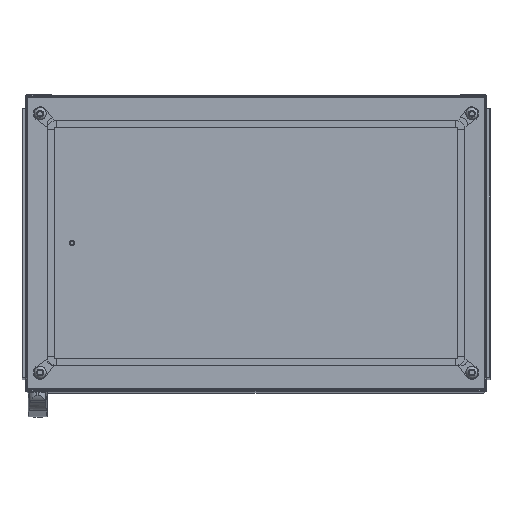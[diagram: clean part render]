
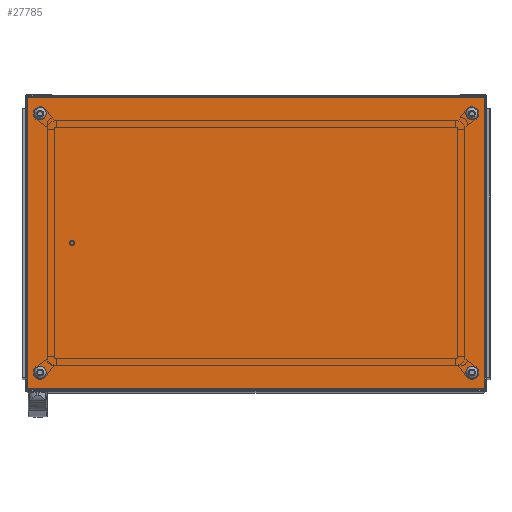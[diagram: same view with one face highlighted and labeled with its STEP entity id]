
A CAD part, top view. The second image highlights one B-rep face of the part: STEP entity #27785.
In plain terms, the highlighted planar face has unit normal (0, 0, 1).
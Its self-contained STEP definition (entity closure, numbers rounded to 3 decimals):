
#1359=CIRCLE('',#29825,6.);
#1360=CIRCLE('',#29826,6.);
#1361=CIRCLE('',#29827,6.);
#1362=CIRCLE('',#29828,6.);
#5171=ORIENTED_EDGE('',*,*,#11805,.F.);
#5172=ORIENTED_EDGE('',*,*,#11806,.F.);
#5173=ORIENTED_EDGE('',*,*,#11807,.F.);
#5174=ORIENTED_EDGE('',*,*,#11808,.F.);
#5175=ORIENTED_EDGE('',*,*,#11794,.T.);
#5176=ORIENTED_EDGE('',*,*,#11802,.T.);
#5177=ORIENTED_EDGE('',*,*,#11765,.F.);
#5178=ORIENTED_EDGE('',*,*,#11809,.F.);
#11765=EDGE_CURVE('',#15317,#15318,#18093,.T.);
#11794=EDGE_CURVE('',#15339,#15338,#18099,.T.);
#11802=EDGE_CURVE('',#15338,#15318,#18104,.T.);
#11805=EDGE_CURVE('',#15340,#15340,#1359,.T.);
#11806=EDGE_CURVE('',#15341,#15341,#1360,.T.);
#11807=EDGE_CURVE('',#15342,#15342,#1361,.T.);
#11808=EDGE_CURVE('',#15343,#15343,#1362,.T.);
#11809=EDGE_CURVE('',#15339,#15317,#18107,.T.);
#15317=VERTEX_POINT('',#43317);
#15318=VERTEX_POINT('',#43319);
#15338=VERTEX_POINT('',#43393);
#15339=VERTEX_POINT('',#43395);
#15340=VERTEX_POINT('',#43412);
#15341=VERTEX_POINT('',#43414);
#15342=VERTEX_POINT('',#43416);
#15343=VERTEX_POINT('',#43418);
#18093=LINE('',#43318,#20502);
#18099=LINE('',#43394,#20508);
#18104=LINE('',#43406,#20513);
#18107=LINE('',#43419,#20516);
#20502=VECTOR('',#34703,1000.);
#20508=VECTOR('',#34757,1000.);
#20513=VECTOR('',#34774,1000.);
#20516=VECTOR('',#34789,1000.);
#22609=EDGE_LOOP('',(#5171));
#22610=EDGE_LOOP('',(#5172));
#22611=EDGE_LOOP('',(#5173));
#22612=EDGE_LOOP('',(#5174));
#22613=EDGE_LOOP('',(#5175,#5176,#5177,#5178));
#24904=FACE_BOUND('',#22609,.T.);
#24905=FACE_BOUND('',#22610,.T.);
#24906=FACE_BOUND('',#22611,.T.);
#24907=FACE_BOUND('',#22612,.T.);
#24908=FACE_BOUND('',#22613,.T.);
#26856=PLANE('',#29824);
#27785=ADVANCED_FACE('',(#24904,#24905,#24906,#24907,#24908),#26856,.T.);
#29824=AXIS2_PLACEMENT_3D('',#43410,#34779,#34780);
#29825=AXIS2_PLACEMENT_3D('',#43411,#34781,#34782);
#29826=AXIS2_PLACEMENT_3D('',#43413,#34783,#34784);
#29827=AXIS2_PLACEMENT_3D('',#43415,#34785,#34786);
#29828=AXIS2_PLACEMENT_3D('',#43417,#34787,#34788);
#34703=DIRECTION('',(-1.,0.,0.));
#34757=DIRECTION('',(-1.,0.,0.));
#34774=DIRECTION('',(0.,-1.,0.));
#34779=DIRECTION('',(0.,0.,1.));
#34780=DIRECTION('',(1.,0.,0.));
#34781=DIRECTION('',(0.,0.,1.));
#34782=DIRECTION('',(1.,0.,0.));
#34783=DIRECTION('',(0.,0.,1.));
#34784=DIRECTION('',(1.,0.,0.));
#34785=DIRECTION('',(0.,0.,1.));
#34786=DIRECTION('',(1.,0.,0.));
#34787=DIRECTION('',(0.,0.,1.));
#34788=DIRECTION('',(1.,0.,0.));
#34789=DIRECTION('',(0.,-1.,0.));
#43317=CARTESIAN_POINT('',(396.5,-252.5,20.));
#43318=CARTESIAN_POINT('',(400.,-252.5,20.));
#43319=CARTESIAN_POINT('',(-396.5,-252.5,20.));
#43393=CARTESIAN_POINT('',(-396.5,252.5,20.));
#43394=CARTESIAN_POINT('',(400.,252.5,20.));
#43395=CARTESIAN_POINT('',(396.5,252.5,20.));
#43406=CARTESIAN_POINT('',(-396.5,255.5,20.));
#43410=CARTESIAN_POINT('',(-396.5,-252.5,20.));
#43411=CARTESIAN_POINT('',(374.5,-224.5,20.));
#43412=CARTESIAN_POINT('',(380.5,-224.5,20.));
#43413=CARTESIAN_POINT('',(-374.5,224.5,20.));
#43414=CARTESIAN_POINT('',(-368.5,224.5,20.));
#43415=CARTESIAN_POINT('',(374.5,224.5,20.));
#43416=CARTESIAN_POINT('',(380.5,224.5,20.));
#43417=CARTESIAN_POINT('',(-374.5,-224.5,20.));
#43418=CARTESIAN_POINT('',(-368.5,-224.5,20.));
#43419=CARTESIAN_POINT('',(396.5,255.5,20.));
